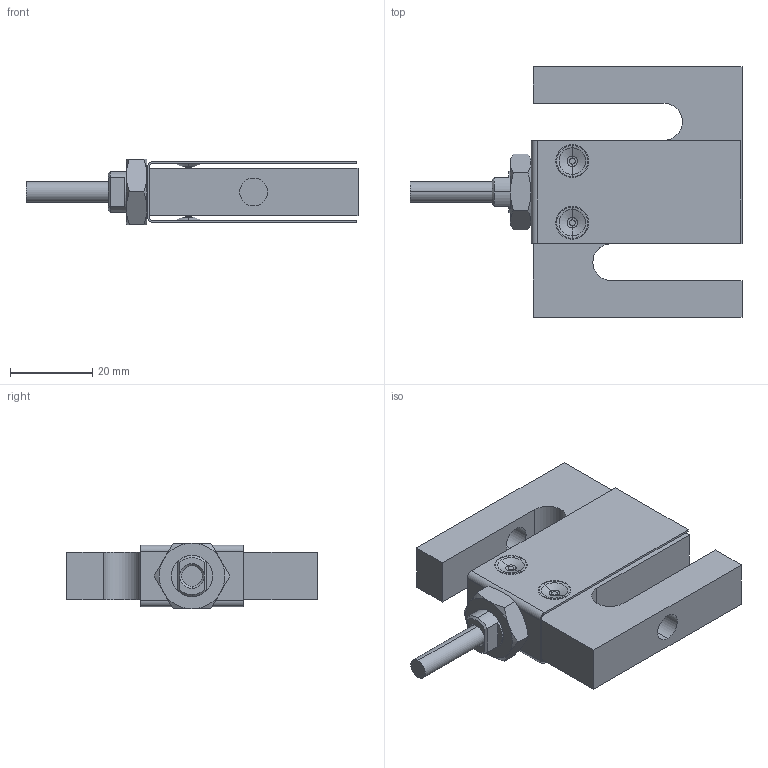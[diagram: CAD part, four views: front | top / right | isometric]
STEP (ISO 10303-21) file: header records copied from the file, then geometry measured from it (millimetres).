
FILE_DESCRIPTION (( 'STEP AP214' ), '1' );
FILE_NAME ('B3G-50kg assy.STEP', '2012-01-26T15:10:43', ( 'Gebruiker' ), ( 'Microsoft' ), 'SwSTEP 2.0', 'SolidWorks 2011', '' );
FILE_SCHEMA (( 'AUTOMOTIVE_DESIGN' ));
Length unit declared in the file: millimetre
Products named in the file (9): hex thin nut chamfered gradeab_iso_Hexagon Thin Nut ISO - 4035 - M10 - S; B3G-50kg cover; Cover part indrukking; Cover; B3G conduit adaptor; B3G cable; B3G-50kg gage potting; B3G-50kg element; B3G-50kg assy
Assembly tree (11 placements, depth 3):
  B3G-50kg assy
    B3G-50kg gage potting
    B3G conduit adaptor
    hex thin nut chamfered gradeab_iso_Hexagon Thin Nut ISO - 4035 - M10 - S
    B3G cable
    B3G-50kg element
    B3G-50kg cover
      Cover
      Cover part indrukking  x4
Bounding box: 80.8 x 60.96 x 16 mm (x, y, z)
Volume: 31660.9 mm3; surface area: 20054.9 mm2
Topology: 10 solids, 10 shells, 215 faces, 477 edges, 289 vertices
Faces by surface type: plane 67, cone 59, cylinder 57, torus 32
Entity records: 5176 total; most frequent: CARTESIAN_POINT 928, DIRECTION 866, ORIENTED_EDGE 750, EDGE_CURVE 375, AXIS2_PLACEMENT_3D 343, VERTEX_POINT 229, EDGE_LOOP 184, VECTOR 180
